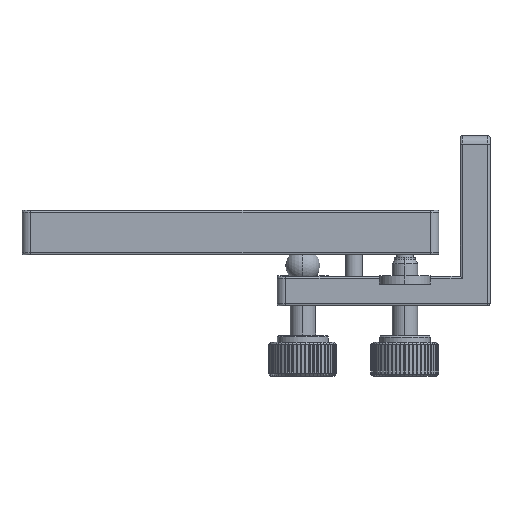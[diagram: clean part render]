
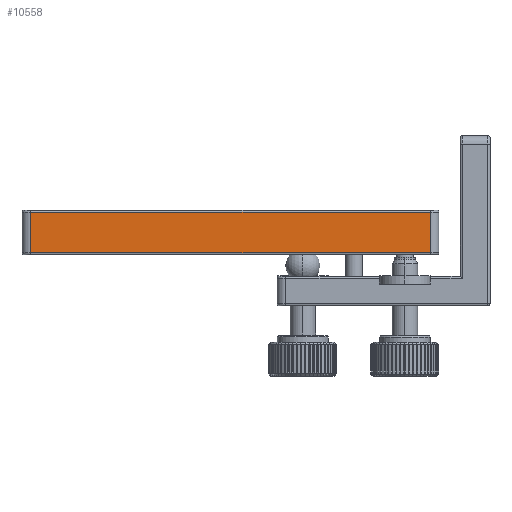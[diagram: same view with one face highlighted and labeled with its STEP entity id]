
A CAD part, left-side view. The second image highlights one B-rep face of the part: STEP entity #10558.
In plain terms, the highlighted planar face has unit normal (-1, 0, 0).
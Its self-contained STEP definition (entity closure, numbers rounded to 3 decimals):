
#190 = DIRECTION ( 'NONE',  ( 0., -1., 0. ) ) ;
#714 = VERTEX_POINT ( 'NONE', #7936 ) ;
#1222 = VECTOR ( 'NONE', #190, 1000. ) ;
#2005 = DIRECTION ( 'NONE',  ( 1., 0., 0. ) ) ;
#2616 = CARTESIAN_POINT ( 'NONE',  ( -45.73, 86.757, 2.5 ) ) ;
#5094 = AXIS2_PLACEMENT_3D ( 'NONE', #20363, #2005, #10159 ) ;
#5685 = EDGE_LOOP ( 'NONE', ( #19934, #18803, #18818, #18106 ) ) ;
#6277 = DIRECTION ( 'NONE',  ( 0., 0., 1. ) ) ;
#6392 = VERTEX_POINT ( 'NONE', #19758 ) ;
#7936 = CARTESIAN_POINT ( 'NONE',  ( -45.73, -7.243, -7.5 ) ) ;
#9208 = LINE ( 'NONE', #17392, #12348 ) ;
#10159 = DIRECTION ( 'NONE',  ( 0., 0., -1. ) ) ;
#10272 = EDGE_CURVE ( 'NONE', #6392, #714, #10356, .T. ) ;
#10356 = LINE ( 'NONE', #18552, #1222 ) ;
#10558 = ADVANCED_FACE ( 'NONE', ( #24415 ), #12153, .F. ) ;
#10764 = DIRECTION ( 'NONE',  ( 0., 0., -1. ) ) ;
#10821 = EDGE_CURVE ( 'NONE', #15637, #22000, #9208, .T. ) ;
#11659 = VECTOR ( 'NONE', #6277, 1000. ) ;
#12153 = PLANE ( 'NONE',  #5094 ) ;
#12348 = VECTOR ( 'NONE', #25603, 1000. ) ;
#14977 = EDGE_CURVE ( 'NONE', #714, #15637, #16451, .T. ) ;
#15510 = EDGE_CURVE ( 'NONE', #22000, #6392, #20977, .T. ) ;
#15637 = VERTEX_POINT ( 'NONE', #23668 ) ;
#16451 = LINE ( 'NONE', #24653, #11659 ) ;
#17392 = CARTESIAN_POINT ( 'NONE',  ( -45.73, -9.243, 2. ) ) ;
#18106 = ORIENTED_EDGE ( 'NONE', *, *, #10821, .T. ) ;
#18552 = CARTESIAN_POINT ( 'NONE',  ( -45.73, -7.243, -7.5 ) ) ;
#18803 = ORIENTED_EDGE ( 'NONE', *, *, #10272, .T. ) ;
#18818 = ORIENTED_EDGE ( 'NONE', *, *, #14977, .T. ) ;
#19758 = CARTESIAN_POINT ( 'NONE',  ( -45.73, 86.757, -7.5 ) ) ;
#19934 = ORIENTED_EDGE ( 'NONE', *, *, #15510, .T. ) ;
#20363 = CARTESIAN_POINT ( 'NONE',  ( -45.73, -9.243, 2.5 ) ) ;
#20977 = LINE ( 'NONE', #2616, #22848 ) ;
#22000 = VERTEX_POINT ( 'NONE', #23511 ) ;
#22848 = VECTOR ( 'NONE', #10764, 1000. ) ;
#23511 = CARTESIAN_POINT ( 'NONE',  ( -45.73, 86.757, 2. ) ) ;
#23668 = CARTESIAN_POINT ( 'NONE',  ( -45.73, -7.243, 2. ) ) ;
#24415 = FACE_OUTER_BOUND ( 'NONE', #5685, .T. ) ;
#24653 = CARTESIAN_POINT ( 'NONE',  ( -45.73, -7.243, 2.5 ) ) ;
#25603 = DIRECTION ( 'NONE',  ( 0., 1., 0. ) ) ;
